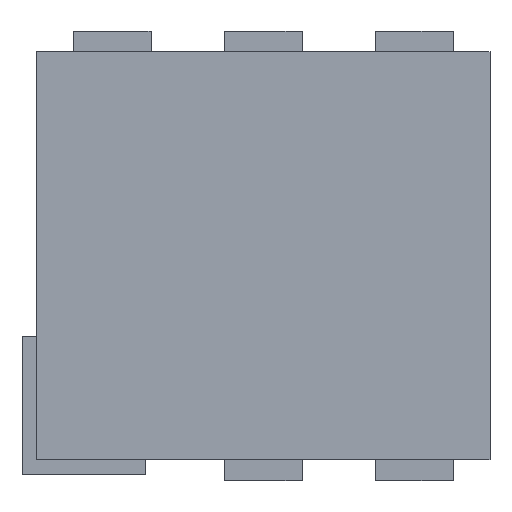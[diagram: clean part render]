
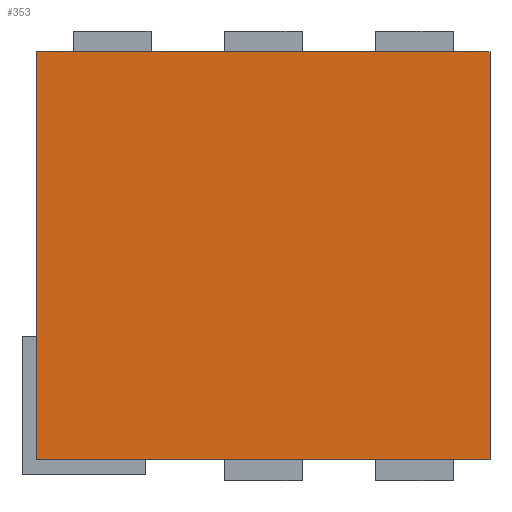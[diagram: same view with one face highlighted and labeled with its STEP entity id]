
A CAD part, top view. The second image highlights one B-rep face of the part: STEP entity #353.
In plain terms, the highlighted planar face has unit normal (0, 0, 1).
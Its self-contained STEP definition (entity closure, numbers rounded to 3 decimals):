
#39 = VERTEX_POINT('',#40);
#40 = CARTESIAN_POINT('',(-0.75,-0.675,0.5));
#47 = PLANE('',#48);
#48 = AXIS2_PLACEMENT_3D('',#49,#50,#51);
#49 = CARTESIAN_POINT('',(-0.75,-0.675,0.));
#50 = DIRECTION('',(0.,1.,0.));
#51 = DIRECTION('',(1.,0.,0.));
#59 = PLANE('',#60);
#60 = AXIS2_PLACEMENT_3D('',#61,#62,#63);
#61 = CARTESIAN_POINT('',(-0.75,0.675,0.));
#62 = DIRECTION('',(1.,0.,-0.));
#63 = DIRECTION('',(0.,-1.,0.));
#71 = EDGE_CURVE('',#39,#72,#74,.T.);
#72 = VERTEX_POINT('',#73);
#73 = CARTESIAN_POINT('',(0.75,-0.675,0.5));
#74 = SURFACE_CURVE('',#75,(#79,#86),.PCURVE_S1.);
#75 = LINE('',#76,#77);
#76 = CARTESIAN_POINT('',(-0.75,-0.675,0.5));
#77 = VECTOR('',#78,1.);
#78 = DIRECTION('',(1.,0.,0.));
#79 = PCURVE('',#47,#80);
#80 = DEFINITIONAL_REPRESENTATION('',(#81),#85);
#81 = LINE('',#82,#83);
#82 = CARTESIAN_POINT('',(0.,-0.5));
#83 = VECTOR('',#84,1.);
#84 = DIRECTION('',(1.,0.));
#85 = ( GEOMETRIC_REPRESENTATION_CONTEXT(2) 
PARAMETRIC_REPRESENTATION_CONTEXT() REPRESENTATION_CONTEXT('2D SPACE',''
  ) );
#86 = PCURVE('',#87,#92);
#87 = PLANE('',#88);
#88 = AXIS2_PLACEMENT_3D('',#89,#90,#91);
#89 = CARTESIAN_POINT('',(0.,0.,0.5));
#90 = DIRECTION('',(0.,0.,1.));
#91 = DIRECTION('',(1.,0.,0.));
#92 = DEFINITIONAL_REPRESENTATION('',(#93),#97);
#93 = LINE('',#94,#95);
#94 = CARTESIAN_POINT('',(-0.75,-0.675));
#95 = VECTOR('',#96,1.);
#96 = DIRECTION('',(1.,0.));
#97 = ( GEOMETRIC_REPRESENTATION_CONTEXT(2) 
PARAMETRIC_REPRESENTATION_CONTEXT() REPRESENTATION_CONTEXT('2D SPACE',''
  ) );
#115 = PLANE('',#116);
#116 = AXIS2_PLACEMENT_3D('',#117,#118,#119);
#117 = CARTESIAN_POINT('',(0.75,-0.675,0.));
#118 = DIRECTION('',(-1.,0.,0.));
#119 = DIRECTION('',(0.,1.,0.));
#157 = EDGE_CURVE('',#72,#158,#160,.T.);
#158 = VERTEX_POINT('',#159);
#159 = CARTESIAN_POINT('',(0.75,0.675,0.5));
#160 = SURFACE_CURVE('',#161,(#165,#172),.PCURVE_S1.);
#161 = LINE('',#162,#163);
#162 = CARTESIAN_POINT('',(0.75,-0.675,0.5));
#163 = VECTOR('',#164,1.);
#164 = DIRECTION('',(0.,1.,0.));
#165 = PCURVE('',#115,#166);
#166 = DEFINITIONAL_REPRESENTATION('',(#167),#171);
#167 = LINE('',#168,#169);
#168 = CARTESIAN_POINT('',(0.,-0.5));
#169 = VECTOR('',#170,1.);
#170 = DIRECTION('',(1.,0.));
#171 = ( GEOMETRIC_REPRESENTATION_CONTEXT(2) 
PARAMETRIC_REPRESENTATION_CONTEXT() REPRESENTATION_CONTEXT('2D SPACE',''
  ) );
#172 = PCURVE('',#87,#173);
#173 = DEFINITIONAL_REPRESENTATION('',(#174),#178);
#174 = LINE('',#175,#176);
#175 = CARTESIAN_POINT('',(0.75,-0.675));
#176 = VECTOR('',#177,1.);
#177 = DIRECTION('',(0.,1.));
#178 = ( GEOMETRIC_REPRESENTATION_CONTEXT(2) 
PARAMETRIC_REPRESENTATION_CONTEXT() REPRESENTATION_CONTEXT('2D SPACE',''
  ) );
#196 = PLANE('',#197);
#197 = AXIS2_PLACEMENT_3D('',#198,#199,#200);
#198 = CARTESIAN_POINT('',(0.75,0.675,0.));
#199 = DIRECTION('',(0.,-1.,0.));
#200 = DIRECTION('',(-1.,0.,0.));
#233 = EDGE_CURVE('',#158,#234,#236,.T.);
#234 = VERTEX_POINT('',#235);
#235 = CARTESIAN_POINT('',(-0.75,0.675,0.5));
#236 = SURFACE_CURVE('',#237,(#241,#248),.PCURVE_S1.);
#237 = LINE('',#238,#239);
#238 = CARTESIAN_POINT('',(0.75,0.675,0.5));
#239 = VECTOR('',#240,1.);
#240 = DIRECTION('',(-1.,0.,0.));
#241 = PCURVE('',#196,#242);
#242 = DEFINITIONAL_REPRESENTATION('',(#243),#247);
#243 = LINE('',#244,#245);
#244 = CARTESIAN_POINT('',(0.,-0.5));
#245 = VECTOR('',#246,1.);
#246 = DIRECTION('',(1.,0.));
#247 = ( GEOMETRIC_REPRESENTATION_CONTEXT(2) 
PARAMETRIC_REPRESENTATION_CONTEXT() REPRESENTATION_CONTEXT('2D SPACE',''
  ) );
#248 = PCURVE('',#87,#249);
#249 = DEFINITIONAL_REPRESENTATION('',(#250),#254);
#250 = LINE('',#251,#252);
#251 = CARTESIAN_POINT('',(0.75,0.675));
#252 = VECTOR('',#253,1.);
#253 = DIRECTION('',(-1.,0.));
#254 = ( GEOMETRIC_REPRESENTATION_CONTEXT(2) 
PARAMETRIC_REPRESENTATION_CONTEXT() REPRESENTATION_CONTEXT('2D SPACE',''
  ) );
#304 = EDGE_CURVE('',#234,#39,#305,.T.);
#305 = SURFACE_CURVE('',#306,(#310,#317),.PCURVE_S1.);
#306 = LINE('',#307,#308);
#307 = CARTESIAN_POINT('',(-0.75,0.675,0.5));
#308 = VECTOR('',#309,1.);
#309 = DIRECTION('',(0.,-1.,0.));
#310 = PCURVE('',#59,#311);
#311 = DEFINITIONAL_REPRESENTATION('',(#312),#316);
#312 = LINE('',#313,#314);
#313 = CARTESIAN_POINT('',(0.,-0.5));
#314 = VECTOR('',#315,1.);
#315 = DIRECTION('',(1.,0.));
#316 = ( GEOMETRIC_REPRESENTATION_CONTEXT(2) 
PARAMETRIC_REPRESENTATION_CONTEXT() REPRESENTATION_CONTEXT('2D SPACE',''
  ) );
#317 = PCURVE('',#87,#318);
#318 = DEFINITIONAL_REPRESENTATION('',(#319),#323);
#319 = LINE('',#320,#321);
#320 = CARTESIAN_POINT('',(-0.75,0.675));
#321 = VECTOR('',#322,1.);
#322 = DIRECTION('',(0.,-1.));
#323 = ( GEOMETRIC_REPRESENTATION_CONTEXT(2) 
PARAMETRIC_REPRESENTATION_CONTEXT() REPRESENTATION_CONTEXT('2D SPACE',''
  ) );
#353 = ADVANCED_FACE('',(#354),#87,.T.);
#354 = FACE_BOUND('',#355,.T.);
#355 = EDGE_LOOP('',(#356,#357,#358,#359));
#356 = ORIENTED_EDGE('',*,*,#71,.T.);
#357 = ORIENTED_EDGE('',*,*,#157,.T.);
#358 = ORIENTED_EDGE('',*,*,#233,.T.);
#359 = ORIENTED_EDGE('',*,*,#304,.T.);
